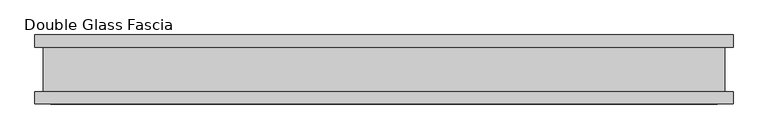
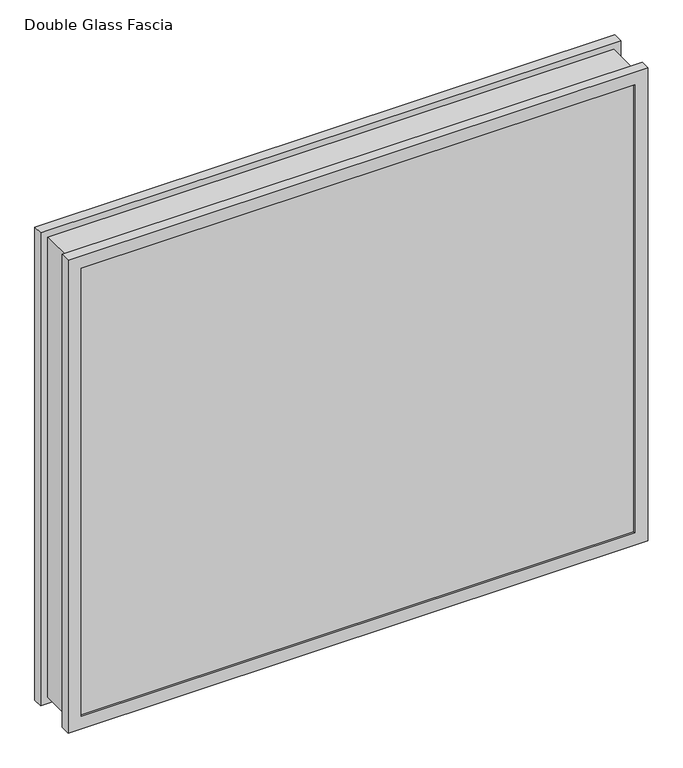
"""IFC4 building model written with IfcOpenShell, lengths in millimetres: proxy geometry, Glass_Fascia-Teknion-FHSG2-Double_Square_Corner-R2022 : Double Glass Fascia."""

from ifc_helpers import new_model, si_unit, frame, origin, place, context, project, spatial, polyline, outline, extrude, faceted_brep, source, transform, mapped, element, save


def double_glass_fascia_480ad7cb(model_context):
    return source(origin(), model_context, "Body", "SolidModel", [
        faceted_brep([(494.2640848, -32.4352299, 863.600885), (494.2640848, -32.4352299, 15.0359151), (494.2640848, 32.4352299, 15.0359151), (494.2640848, 32.4352299, 863.600885), (-494.2640848, -32.4352299, 15.0359151), (-494.2640848, 32.4352299, 15.0359151), (-494.2640848, -32.4352299, 863.600885), (-494.2640848, 32.4352299, 863.600885), (483.0871999, 38.8962152, 852.4240001), (483.0871999, 38.8962152, 26.2128), (483.0871999, -38.8962152, 26.2128), (483.0871999, -38.8962152, 852.4240001), (499.8218392, 47.1322551, 869.1586393), (499.8218392, 47.1322551, 9.4781608), (499.8218392, 38.8962152, 9.4781608), (499.8218392, 38.8962152, 869.1586393), (482.9093999, 50.0558594, 852.2462001), (482.9093999, 50.0558594, 26.3906), (482.9093999, 47.1322551, 26.3906), (482.9093999, 47.1322551, 852.2462001), (506.1249999, 32.4352299, 875.4618001), (506.1249999, 32.4352299, 3.175), (506.1249999, 50.0558594, 3.175), (506.1249999, 50.0558594, 875.4618001), (-483.0871999, 38.8962152, 26.2128), (-483.0871999, -38.8962152, 26.2128), (-499.8218392, 47.1322551, 9.4781608), (-499.8218392, 38.8962152, 9.4781608), (-482.9093999, 50.0558594, 26.3906), (-482.9093999, 47.1322551, 26.3906), (-506.1249999, 32.4352299, 3.175), (-506.1249999, 50.0558594, 3.175), (-483.0871999, 38.8962152, 852.4240001), (-483.0871999, -38.8962152, 852.4240001), (-499.8218392, 47.1322551, 869.1586393), (-499.8218392, 38.8962152, 869.1586393), (-482.9093999, 50.0558594, 852.2462001), (-482.9093999, 47.1322551, 852.2462001), (-506.1249999, 32.4352299, 875.4618001), (-506.1249999, 50.0558594, 875.4618001), (506.1249999, -50.0558594, 875.4618001), (506.1249999, -50.0558594, 3.175), (506.1249999, -32.4352299, 3.175), (506.1249999, -32.4352299, 875.4618001), (483.0871999, -47.1322551, 852.4240001), (483.0871999, -47.1322551, 26.2128), (483.0871999, -50.0558594, 26.2128), (483.0871999, -50.0558594, 852.4240001), (499.8218392, -38.8962152, 869.1586393), (499.8218392, -38.8962152, 9.4781608), (499.8218392, -47.1322551, 9.4781608), (499.8218392, -47.1322551, 869.1586393), (-506.1249999, -50.0558594, 3.175), (-506.1249999, -32.4352299, 3.175), (-483.0871999, -47.1322551, 26.2128), (-483.0871999, -50.0558594, 26.2128), (-499.8218392, -38.8962152, 9.4781608), (-499.8218392, -47.1322551, 9.4781608), (-506.1249999, -50.0558594, 875.4618001), (-506.1249999, -32.4352299, 875.4618001), (-483.0871999, -47.1322551, 852.4240001), (-483.0871999, -50.0558594, 852.4240001), (-499.8218392, -38.8962152, 869.1586393), (-499.8218392, -47.1322551, 869.1586393)], [[[0, 1, 2, 3]], [[1, 4, 5, 2]], [[4, 6, 7, 5]], [[6, 0, 3, 7]], [[8, 9, 10, 11]], [[12, 13, 14, 15]], [[16, 17, 18, 19]], [[20, 21, 22, 23]], [[9, 24, 25, 10]], [[13, 26, 27, 14]], [[17, 28, 29, 18]], [[21, 30, 31, 22]], [[24, 32, 33, 25]], [[26, 34, 35, 27]], [[28, 36, 37, 29]], [[30, 38, 39, 31]], [[32, 8, 11, 33]], [[15, 14, 27, 35], [9, 8, 32, 24]], [[34, 12, 15, 35]], [[13, 12, 34, 26], [19, 18, 29, 37]], [[36, 16, 19, 37]], [[23, 22, 31, 39], [17, 16, 36, 28]], [[38, 20, 23, 39]], [[21, 20, 38, 30], [3, 2, 5, 7]], [[40, 41, 42, 43]], [[44, 45, 46, 47]], [[48, 49, 50, 51]], [[41, 52, 53, 42]], [[45, 54, 55, 46]], [[49, 56, 57, 50]], [[52, 58, 59, 53]], [[54, 60, 61, 55]], [[56, 62, 63, 57]], [[43, 42, 53, 59], [1, 0, 6, 4]], [[58, 40, 43, 59]], [[41, 40, 58, 52], [47, 46, 55, 61]], [[60, 44, 47, 61]], [[51, 50, 57, 63], [45, 44, 60, 54]], [[62, 48, 51, 63]], [[49, 48, 62, 56], [11, 10, 25, 33]]]),
        extrude(outline(polyline([(495.3, 40.9277344), (-495.3, 40.9277344), (-495.3, 46.8808594), (495.3, 46.8808594), (495.3, 40.9277344)])), frame((0.0, 0.0, 5.3275263), z_axis=(0.0, 0.0, 1.0), x_axis=(1.0, 0.0, 0.0)), (0.0, 0.0, 1.0), 867.4877281),
        extrude(outline(polyline([(495.3, -41.1791301), (495.3, -47.1322551), (-495.3, -47.1322551), (-495.3, -41.1791301), (495.3, -41.1791301)])), frame((0.0, 0.0, 5.3275263), z_axis=(0.0, 0.0, 1.0), x_axis=(1.0, 0.0, 0.0)), (0.0, 0.0, 1.0), 867.4877281),
    ])


if __name__ == "__main__":
    model = new_model("IFC4")
    model_context = context("Model", 3, world=origin())
    ifc_project = project(units=[si_unit("LENGTHUNIT", "METRE", prefix="MILLI")], contexts=[model_context])
    site = spatial("IfcSite", under=ifc_project)
    building = spatial("IfcBuilding", under=site)
    placement = place(None, origin())
    double_glass_fascia_shape = double_glass_fascia_480ad7cb(model_context)
    element("IfcBuildingElementProxy", 1, Name="Glass_Fascia-Teknion-FHSG2-Double_Square_Corner-R2022 : Double Glass Fascia", ObjectType="Glass_Fascia-Teknion-FHSG2-Double_Square_Corner-R2022 : Double Glass Fascia", at=placement, inside=building, context=model_context, shape_type="MappedRepresentation", body=[
        mapped(double_glass_fascia_shape, transform((0.0, 0.0, 0.0), x_axis=(1.0, 0.0, 0.0), y_axis=(0.0, 1.0, 0.0), z_axis=(0.0, 0.0, 1.0))),
    ])
    save(model, "model.ifc")
